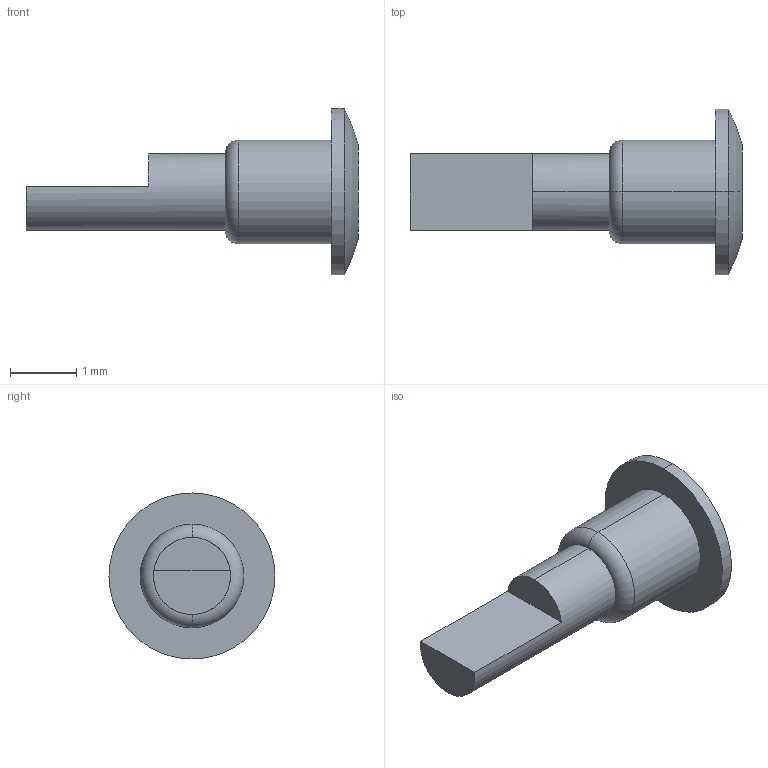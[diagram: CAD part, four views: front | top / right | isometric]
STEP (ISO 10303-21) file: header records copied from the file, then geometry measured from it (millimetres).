
FILE_DESCRIPTION((''),'2;1');
FILE_NAME('PRT0009','2023-05-25T15:28:09',('Administrator'),(''),'CREO PARAMETRIC BY PTC INC, 2018400','CREO PARAMETRIC BY PTC INC, 2018400','');
FILE_SCHEMA(('CONFIG_CONTROL_DESIGN'));
Length unit declared in the file: millimetre
Products named in the file (1): PRT0009
Bounding box: 5 x 2.5 x 2.5 mm (x, y, z)
Volume: 7 mm3; surface area: 29 mm2
Topology: 1 solids, 1 shells, 15 faces, 30 edges, 18 vertices
Faces by surface type: cylinder 6, plane 5, torus 2, sphere 2
Entity records: 434 total; most frequent: DIRECTION 80, CARTESIAN_POINT 63, ORIENTED_EDGE 60, AXIS2_PLACEMENT_3D 35, EDGE_CURVE 30, CIRCLE 20, VERTEX_POINT 18, EDGE_LOOP 16
